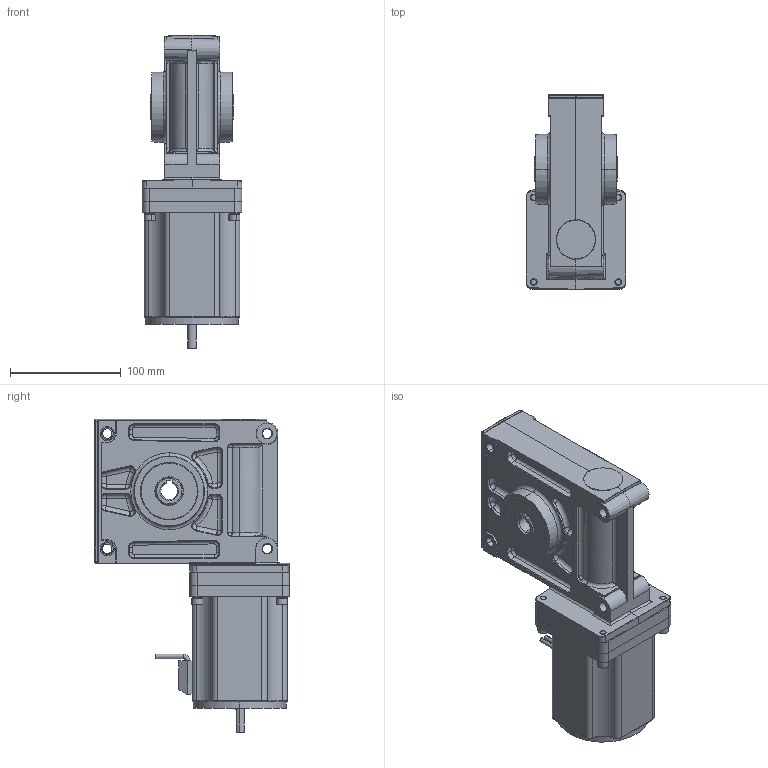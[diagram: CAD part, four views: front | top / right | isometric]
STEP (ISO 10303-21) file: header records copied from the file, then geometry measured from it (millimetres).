
FILE_DESCRIPTION (( 'STEP AP214' ), '1' );
FILE_NAME ('PBL86-55-GB9.STEP', '2024-01-03T10:40:19', ( '' ), ( '' ), 'SwSTEP 2.0', 'SolidWorks 2023', '' );
FILE_SCHEMA (( 'AUTOMOTIVE_DESIGN' ));
Length unit declared in the file: millimetre
Products named in the file (1): PBL86-55-GB9
Bounding box: 90 x 176.1 x 283.2 mm (x, y, z)
Volume: 1298360.9 mm3; surface area: 301830 mm2
Topology: 35 solids, 35 shells, 1827 faces, 4261 edges, 2554 vertices
Faces by surface type: cylinder 660, plane 506, cone 274, torus 257, bspline 97, sphere 33
Entity records: 75497 total; most frequent: CARTESIAN_POINT 13257, DIRECTION 9262, ORIENTED_EDGE 8440, EDGE_CURVE 4220, AXIS2_PLACEMENT_3D 3706, VERTEX_POINT 2554, EDGE_LOOP 2022, CIRCLE 1975
